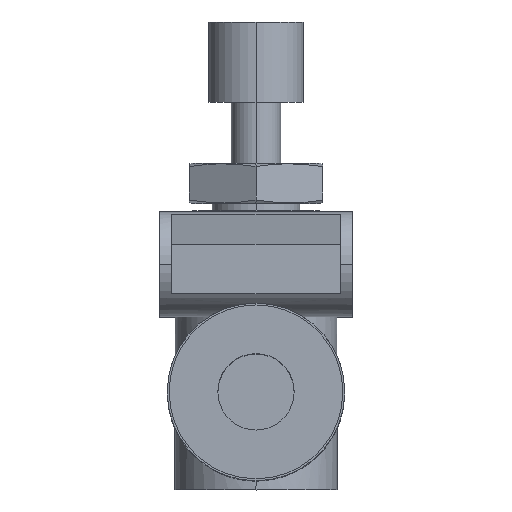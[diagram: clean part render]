
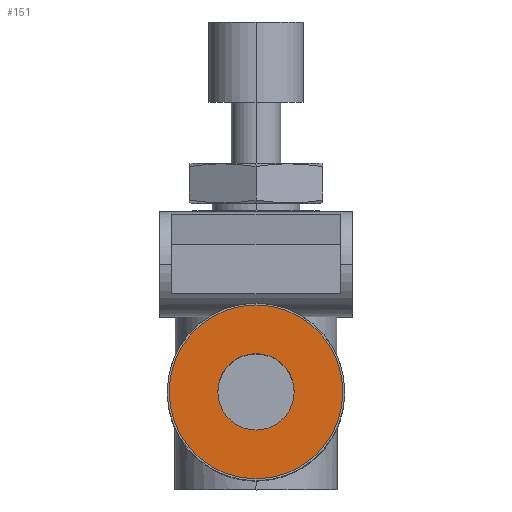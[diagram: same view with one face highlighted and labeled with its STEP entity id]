
A CAD part, top view. The second image highlights one B-rep face of the part: STEP entity #151.
In plain terms, the highlighted planar face has unit normal (0, 0, 1).
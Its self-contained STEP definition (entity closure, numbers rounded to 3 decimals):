
#151 = ADVANCED_FACE( '', ( #321, #322 ), #323, .T. );
#321 = FACE_BOUND( '', #494, .T. );
#322 = FACE_OUTER_BOUND( '', #495, .T. );
#323 = PLANE( '', #496 );
#494 = EDGE_LOOP( '', ( #1103, #1104 ) );
#495 = EDGE_LOOP( '', ( #1105, #1106 ) );
#496 = AXIS2_PLACEMENT_3D( '', #1107, #1108, #1109 );
#1103 = ORIENTED_EDGE( '', *, *, #1312, .F. );
#1104 = ORIENTED_EDGE( '', *, *, #1125, .F. );
#1105 = ORIENTED_EDGE( '', *, *, #1129, .T. );
#1106 = ORIENTED_EDGE( '', *, *, #1311, .T. );
#1107 = CARTESIAN_POINT( '', ( 0., 3.275, 18.5 ) );
#1108 = DIRECTION( '', ( 0., 0., 1. ) );
#1109 = DIRECTION( '', ( 0., 1., 0. ) );
#1125 = EDGE_CURVE( '', #1319, #1315, #1321, .T. );
#1129 = EDGE_CURVE( '', #1323, #1327, #1329, .T. );
#1311 = EDGE_CURVE( '', #1327, #1323, #1629, .T. );
#1312 = EDGE_CURVE( '', #1315, #1319, #1630, .T. );
#1315 = VERTEX_POINT( '', #1633 );
#1319 = VERTEX_POINT( '', #1638 );
#1321 = CIRCLE( '', #1641, 2. );
#1323 = VERTEX_POINT( '', #1643 );
#1327 = VERTEX_POINT( '', #1648 );
#1329 = CIRCLE( '', #1651, 4.55 );
#1629 = CIRCLE( '', #2837, 4.55 );
#1630 = CIRCLE( '', #2838, 2. );
#1633 = CARTESIAN_POINT( '', ( 0., 2., 18.5 ) );
#1638 = CARTESIAN_POINT( '', ( 0., -2., 18.5 ) );
#1641 = AXIS2_PLACEMENT_3D( '', #2845, #2846, #2847 );
#1643 = CARTESIAN_POINT( '', ( 0., 4.55, 18.5 ) );
#1648 = CARTESIAN_POINT( '', ( 0., -4.55, 18.5 ) );
#1651 = AXIS2_PLACEMENT_3D( '', #2853, #2854, #2855 );
#2837 = AXIS2_PLACEMENT_3D( '', #3135, #3136, #3137 );
#2838 = AXIS2_PLACEMENT_3D( '', #3138, #3139, #3140 );
#2845 = CARTESIAN_POINT( '', ( 0., 0., 18.5 ) );
#2846 = DIRECTION( '', ( 0., 0., 1. ) );
#2847 = DIRECTION( '', ( 0., 1., 0. ) );
#2853 = CARTESIAN_POINT( '', ( 0., 0., 18.5 ) );
#2854 = DIRECTION( '', ( 0., 0., 1. ) );
#2855 = DIRECTION( '', ( 0., 1., 0. ) );
#3135 = CARTESIAN_POINT( '', ( 0., 0., 18.5 ) );
#3136 = DIRECTION( '', ( 0., 0., 1. ) );
#3137 = DIRECTION( '', ( 0., 1., 0. ) );
#3138 = CARTESIAN_POINT( '', ( 0., 0., 18.5 ) );
#3139 = DIRECTION( '', ( 0., 0., 1. ) );
#3140 = DIRECTION( '', ( 0., 1., 0. ) );
